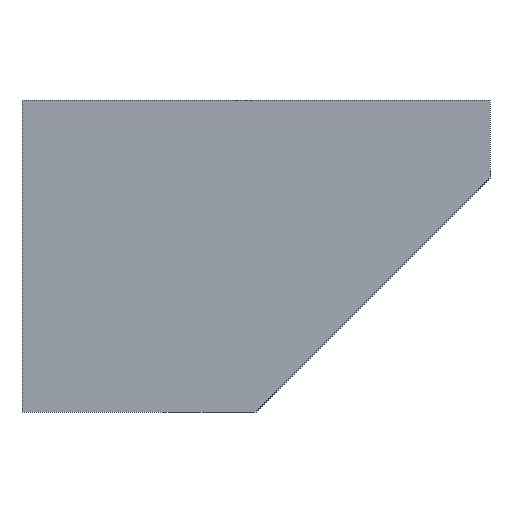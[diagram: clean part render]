
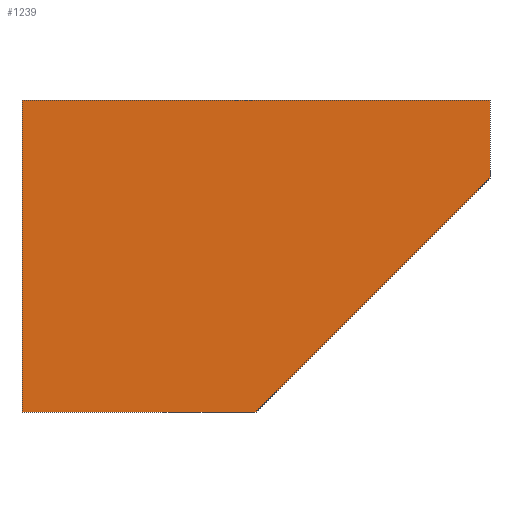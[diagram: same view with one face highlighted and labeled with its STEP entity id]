
A CAD part, front view. The second image highlights one B-rep face of the part: STEP entity #1239.
In plain terms, the highlighted planar face has unit normal (0, -1, 0).
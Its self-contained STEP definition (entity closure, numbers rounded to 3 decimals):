
#40 = EDGE_CURVE ( 'NONE', #970, #293, #74, .T. ) ;
#46 = VECTOR ( 'NONE', #389, 1000. ) ;
#74 = LINE ( 'NONE', #838, #666 ) ;
#101 = LINE ( 'NONE', #132, #1014 ) ;
#132 = CARTESIAN_POINT ( 'NONE',  ( 0., 0., 0. ) ) ;
#171 = ORIENTED_EDGE ( 'NONE', *, *, #1097, .T. ) ;
#186 = CARTESIAN_POINT ( 'NONE',  ( 0., 0., 0. ) ) ;
#217 = FACE_OUTER_BOUND ( 'NONE', #303, .T. ) ;
#271 = AXIS2_PLACEMENT_3D ( 'NONE', #186, #542, #1351 ) ;
#293 = VERTEX_POINT ( 'NONE', #503 ) ;
#303 = EDGE_LOOP ( 'NONE', ( #1278, #171, #514, #781, #626 ) ) ;
#389 = DIRECTION ( 'NONE',  ( 0.707, 0., 0.707 ) ) ;
#420 = PLANE ( 'NONE',  #271 ) ;
#469 = CARTESIAN_POINT ( 'NONE',  ( 0., 0., -20. ) ) ;
#492 = LINE ( 'NONE', #895, #1379 ) ;
#503 = CARTESIAN_POINT ( 'NONE',  ( 30., 0., 0. ) ) ;
#514 = ORIENTED_EDGE ( 'NONE', *, *, #1356, .F. ) ;
#524 = EDGE_CURVE ( 'NONE', #1383, #970, #101, .T. ) ;
#542 = DIRECTION ( 'NONE',  ( 0., -1., 0. ) ) ;
#611 = DIRECTION ( 'NONE',  ( 0., 0., 1. ) ) ;
#623 = VERTEX_POINT ( 'NONE', #635 ) ;
#626 = ORIENTED_EDGE ( 'NONE', *, *, #524, .F. ) ;
#635 = CARTESIAN_POINT ( 'NONE',  ( 15., 0., -20. ) ) ;
#638 = CARTESIAN_POINT ( 'NONE',  ( 30., 0., -5. ) ) ;
#659 = LINE ( 'NONE', #1516, #1279 ) ;
#666 = VECTOR ( 'NONE', #1128, 1000. ) ;
#684 = CARTESIAN_POINT ( 'NONE',  ( 0., 0., 0. ) ) ;
#685 = VERTEX_POINT ( 'NONE', #638 ) ;
#774 = DIRECTION ( 'NONE',  ( -1., 0., 0. ) ) ;
#781 = ORIENTED_EDGE ( 'NONE', *, *, #40, .F. ) ;
#824 = DIRECTION ( 'NONE',  ( 0., 0., -1. ) ) ;
#838 = CARTESIAN_POINT ( 'NONE',  ( 0., 0., 0. ) ) ;
#895 = CARTESIAN_POINT ( 'NONE',  ( 0., 0., -20. ) ) ;
#970 = VERTEX_POINT ( 'NONE', #684 ) ;
#991 = LINE ( 'NONE', #1088, #46 ) ;
#1014 = VECTOR ( 'NONE', #611, 1000. ) ;
#1088 = CARTESIAN_POINT ( 'NONE',  ( 17.5, 0., -17.5 ) ) ;
#1097 = EDGE_CURVE ( 'NONE', #623, #685, #991, .T. ) ;
#1128 = DIRECTION ( 'NONE',  ( 1., 0., 0. ) ) ;
#1239 = ADVANCED_FACE ( 'NONE', ( #217 ), #420, .T. ) ;
#1254 = EDGE_CURVE ( 'NONE', #623, #1383, #492, .T. ) ;
#1278 = ORIENTED_EDGE ( 'NONE', *, *, #1254, .F. ) ;
#1279 = VECTOR ( 'NONE', #824, 1000. ) ;
#1351 = DIRECTION ( 'NONE',  ( 0., 0., -1. ) ) ;
#1356 = EDGE_CURVE ( 'NONE', #293, #685, #659, .T. ) ;
#1379 = VECTOR ( 'NONE', #774, 1000. ) ;
#1383 = VERTEX_POINT ( 'NONE', #469 ) ;
#1516 = CARTESIAN_POINT ( 'NONE',  ( 30., 0., 0. ) ) ;
